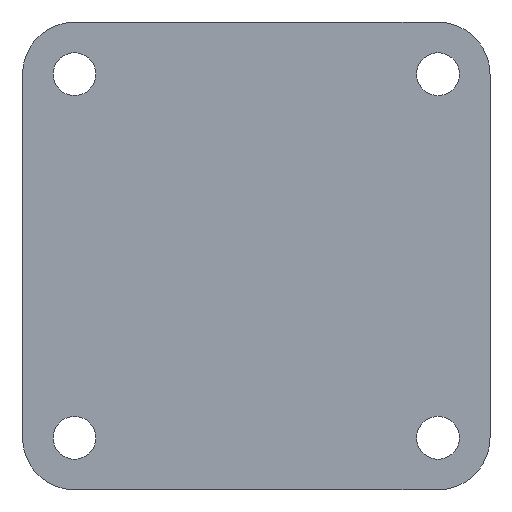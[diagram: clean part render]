
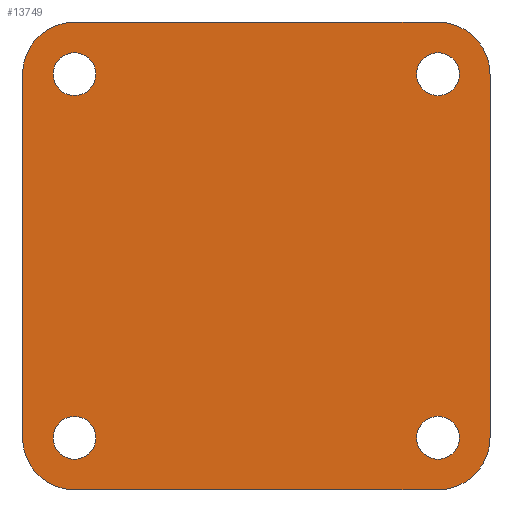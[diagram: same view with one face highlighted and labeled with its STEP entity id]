
A CAD part, left-side view. The second image highlights one B-rep face of the part: STEP entity #13749.
In plain terms, the highlighted planar face has unit normal (-1, 0, 0).
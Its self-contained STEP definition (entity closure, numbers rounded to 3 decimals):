
#12617=CARTESIAN_POINT('Line Origine',(-23.,90.,0.)) ;
#12621=CARTESIAN_POINT('Vertex',(-23.,90.,-70.)) ;
#12623=CARTESIAN_POINT('Vertex',(-23.,90.,70.)) ;
#13508=CARTESIAN_POINT('Vertex',(-23.,-78.25,70.)) ;
#13515=CARTESIAN_POINT('Vertex',(-23.,-61.75,70.)) ;
#13518=CARTESIAN_POINT('Axis2P3D Location',(-23.,-70.,70.)) ;
#13530=CARTESIAN_POINT('Axis2P3D Location',(-23.,-70.,70.)) ;
#13551=CARTESIAN_POINT('Vertex',(-23.,-78.25,-70.)) ;
#13558=CARTESIAN_POINT('Vertex',(-23.,-61.75,-70.)) ;
#13561=CARTESIAN_POINT('Axis2P3D Location',(-23.,-70.,-70.)) ;
#13573=CARTESIAN_POINT('Axis2P3D Location',(-23.,-70.,-70.)) ;
#13594=CARTESIAN_POINT('Vertex',(-23.,78.25,-70.)) ;
#13601=CARTESIAN_POINT('Vertex',(-23.,61.75,-70.)) ;
#13604=CARTESIAN_POINT('Axis2P3D Location',(-23.,70.,-70.)) ;
#13616=CARTESIAN_POINT('Axis2P3D Location',(-23.,70.,-70.)) ;
#13637=CARTESIAN_POINT('Vertex',(-23.,78.25,70.)) ;
#13644=CARTESIAN_POINT('Vertex',(-23.,61.75,70.)) ;
#13647=CARTESIAN_POINT('Axis2P3D Location',(-23.,70.,70.)) ;
#13659=CARTESIAN_POINT('Axis2P3D Location',(-23.,70.,70.)) ;
#13671=CARTESIAN_POINT('Axis2P3D Location',(-23.,0.,0.)) ;
#13676=CARTESIAN_POINT('Line Origine',(-23.,0.,90.)) ;
#13680=CARTESIAN_POINT('Vertex',(-23.,70.,90.)) ;
#13682=CARTESIAN_POINT('Vertex',(-23.,-70.,90.)) ;
#13685=CARTESIAN_POINT('Axis2P3D Location',(-23.,70.,70.)) ;
#13690=CARTESIAN_POINT('Axis2P3D Location',(-23.,70.,-70.)) ;
#13694=CARTESIAN_POINT('Vertex',(-23.,70.,-90.)) ;
#13697=CARTESIAN_POINT('Line Origine',(-23.,0.,-90.)) ;
#13701=CARTESIAN_POINT('Vertex',(-23.,-70.,-90.)) ;
#13704=CARTESIAN_POINT('Axis2P3D Location',(-23.,-70.,-70.)) ;
#13708=CARTESIAN_POINT('Vertex',(-23.,-90.,-70.)) ;
#13711=CARTESIAN_POINT('Line Origine',(-23.,-90.,0.)) ;
#13715=CARTESIAN_POINT('Vertex',(-23.,-90.,70.)) ;
#13718=CARTESIAN_POINT('Axis2P3D Location',(-23.,-70.,70.)) ;
#12618=DIRECTION('Vector Direction',(0.,0.,1.)) ;
#13519=DIRECTION('Axis2P3D Direction',(1.,0.,0.)) ;
#13531=DIRECTION('Axis2P3D Direction',(1.,0.,0.)) ;
#13562=DIRECTION('Axis2P3D Direction',(1.,0.,0.)) ;
#13574=DIRECTION('Axis2P3D Direction',(1.,0.,0.)) ;
#13605=DIRECTION('Axis2P3D Direction',(1.,0.,0.)) ;
#13617=DIRECTION('Axis2P3D Direction',(1.,0.,0.)) ;
#13648=DIRECTION('Axis2P3D Direction',(1.,0.,0.)) ;
#13660=DIRECTION('Axis2P3D Direction',(1.,0.,0.)) ;
#13672=DIRECTION('Axis2P3D Direction',(1.,0.,0.)) ;
#13673=DIRECTION('Axis2P3D XDirection',(0.,1.,0.)) ;
#13677=DIRECTION('Vector Direction',(0.,1.,0.)) ;
#13686=DIRECTION('Axis2P3D Direction',(1.,0.,0.)) ;
#13691=DIRECTION('Axis2P3D Direction',(1.,0.,0.)) ;
#13698=DIRECTION('Vector Direction',(0.,-1.,0.)) ;
#13705=DIRECTION('Axis2P3D Direction',(1.,0.,0.)) ;
#13712=DIRECTION('Vector Direction',(0.,0.,-1.)) ;
#13719=DIRECTION('Axis2P3D Direction',(1.,0.,0.)) ;
#13520=AXIS2_PLACEMENT_3D('Circle Axis2P3D',#13518,#13519,$) ;
#13532=AXIS2_PLACEMENT_3D('Circle Axis2P3D',#13530,#13531,$) ;
#13563=AXIS2_PLACEMENT_3D('Circle Axis2P3D',#13561,#13562,$) ;
#13575=AXIS2_PLACEMENT_3D('Circle Axis2P3D',#13573,#13574,$) ;
#13606=AXIS2_PLACEMENT_3D('Circle Axis2P3D',#13604,#13605,$) ;
#13618=AXIS2_PLACEMENT_3D('Circle Axis2P3D',#13616,#13617,$) ;
#13649=AXIS2_PLACEMENT_3D('Circle Axis2P3D',#13647,#13648,$) ;
#13661=AXIS2_PLACEMENT_3D('Circle Axis2P3D',#13659,#13660,$) ;
#13674=AXIS2_PLACEMENT_3D('Plane Axis2P3D',#13671,#13672,#13673) ;
#13687=AXIS2_PLACEMENT_3D('Circle Axis2P3D',#13685,#13686,$) ;
#13692=AXIS2_PLACEMENT_3D('Circle Axis2P3D',#13690,#13691,$) ;
#13706=AXIS2_PLACEMENT_3D('Circle Axis2P3D',#13704,#13705,$) ;
#13720=AXIS2_PLACEMENT_3D('Circle Axis2P3D',#13718,#13719,$) ;
#13724=ORIENTED_EDGE('',*,*,#13684,.F.) ;
#13725=ORIENTED_EDGE('',*,*,#13689,.F.) ;
#13726=ORIENTED_EDGE('',*,*,#12625,.F.) ;
#13727=ORIENTED_EDGE('',*,*,#13696,.F.) ;
#13728=ORIENTED_EDGE('',*,*,#13703,.F.) ;
#13729=ORIENTED_EDGE('',*,*,#13710,.F.) ;
#13730=ORIENTED_EDGE('',*,*,#13717,.F.) ;
#13731=ORIENTED_EDGE('',*,*,#13722,.F.) ;
#13734=ORIENTED_EDGE('',*,*,#13534,.T.) ;
#13735=ORIENTED_EDGE('',*,*,#13522,.T.) ;
#13738=ORIENTED_EDGE('',*,*,#13577,.T.) ;
#13739=ORIENTED_EDGE('',*,*,#13565,.T.) ;
#13742=ORIENTED_EDGE('',*,*,#13620,.T.) ;
#13743=ORIENTED_EDGE('',*,*,#13608,.T.) ;
#13746=ORIENTED_EDGE('',*,*,#13663,.T.) ;
#13747=ORIENTED_EDGE('',*,*,#13651,.T.) ;
#13736=FACE_BOUND('',#13733,.T.) ;
#13740=FACE_BOUND('',#13737,.T.) ;
#13744=FACE_BOUND('',#13741,.T.) ;
#13748=FACE_BOUND('',#13745,.T.) ;
#12619=VECTOR('Line Direction',#12618,1.) ;
#13678=VECTOR('Line Direction',#13677,1.) ;
#13699=VECTOR('Line Direction',#13698,1.) ;
#13713=VECTOR('Line Direction',#13712,1.) ;
#13749=ADVANCED_FACE('PartBody',(#13732,#13736,#13740,#13744,#13748),#13675,.F.) ;
#13521=CIRCLE('generated circle',#13520,8.25) ;
#13533=CIRCLE('generated circle',#13532,8.25) ;
#13564=CIRCLE('generated circle',#13563,8.25) ;
#13576=CIRCLE('generated circle',#13575,8.25) ;
#13607=CIRCLE('generated circle',#13606,8.25) ;
#13619=CIRCLE('generated circle',#13618,8.25) ;
#13650=CIRCLE('generated circle',#13649,8.25) ;
#13662=CIRCLE('generated circle',#13661,8.25) ;
#13688=CIRCLE('generated circle',#13687,20.) ;
#13693=CIRCLE('generated circle',#13692,20.) ;
#13707=CIRCLE('generated circle',#13706,20.) ;
#13721=CIRCLE('generated circle',#13720,20.) ;
#12625=EDGE_CURVE('',#12622,#12624,#12620,.T.) ;
#13522=EDGE_CURVE('',#13509,#13516,#13521,.T.) ;
#13534=EDGE_CURVE('',#13516,#13509,#13533,.T.) ;
#13565=EDGE_CURVE('',#13552,#13559,#13564,.T.) ;
#13577=EDGE_CURVE('',#13559,#13552,#13576,.T.) ;
#13608=EDGE_CURVE('',#13595,#13602,#13607,.T.) ;
#13620=EDGE_CURVE('',#13602,#13595,#13619,.T.) ;
#13651=EDGE_CURVE('',#13638,#13645,#13650,.T.) ;
#13663=EDGE_CURVE('',#13645,#13638,#13662,.T.) ;
#13684=EDGE_CURVE('',#13681,#13683,#13679,.F.) ;
#13689=EDGE_CURVE('',#12624,#13681,#13688,.T.) ;
#13696=EDGE_CURVE('',#13695,#12622,#13693,.T.) ;
#13703=EDGE_CURVE('',#13702,#13695,#13700,.F.) ;
#13710=EDGE_CURVE('',#13709,#13702,#13707,.T.) ;
#13717=EDGE_CURVE('',#13716,#13709,#13714,.T.) ;
#13722=EDGE_CURVE('',#13683,#13716,#13721,.T.) ;
#13723=EDGE_LOOP('',(#13724,#13725,#13726,#13727,#13728,#13729,#13730,#13731)) ;
#13733=EDGE_LOOP('',(#13734,#13735)) ;
#13737=EDGE_LOOP('',(#13738,#13739)) ;
#13741=EDGE_LOOP('',(#13742,#13743)) ;
#13745=EDGE_LOOP('',(#13746,#13747)) ;
#13732=FACE_OUTER_BOUND('',#13723,.T.) ;
#12620=LINE('Line',#12617,#12619) ;
#13679=LINE('Line',#13676,#13678) ;
#13700=LINE('Line',#13697,#13699) ;
#13714=LINE('Line',#13711,#13713) ;
#13675=PLANE('',#13674) ;
#12622=VERTEX_POINT('',#12621) ;
#12624=VERTEX_POINT('',#12623) ;
#13509=VERTEX_POINT('',#13508) ;
#13516=VERTEX_POINT('',#13515) ;
#13552=VERTEX_POINT('',#13551) ;
#13559=VERTEX_POINT('',#13558) ;
#13595=VERTEX_POINT('',#13594) ;
#13602=VERTEX_POINT('',#13601) ;
#13638=VERTEX_POINT('',#13637) ;
#13645=VERTEX_POINT('',#13644) ;
#13681=VERTEX_POINT('',#13680) ;
#13683=VERTEX_POINT('',#13682) ;
#13695=VERTEX_POINT('',#13694) ;
#13702=VERTEX_POINT('',#13701) ;
#13709=VERTEX_POINT('',#13708) ;
#13716=VERTEX_POINT('',#13715) ;
